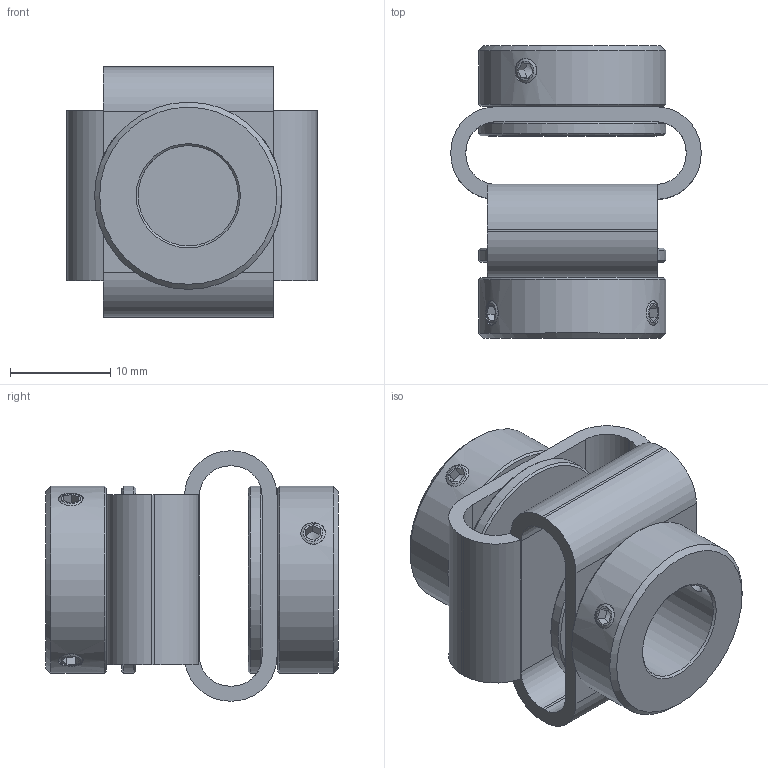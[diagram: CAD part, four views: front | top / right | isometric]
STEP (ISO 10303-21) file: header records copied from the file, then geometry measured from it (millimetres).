
FILE_DESCRIPTION(/* description */ (''),/* implementation_level */ '2;1');
FILE_NAME(/* name */ 'Z:\ABP-Antriebstechnik\Entwicklung-3D\Paguflex\DKPS 2928 06 10.stp',/* time_stamp */ '2017-06-26T14:44:44+02:00',/* author */ ('werner.boesinger'),/* organization */ (''),/* preprocessor_version */ 'ST-DEVELOPER v16.1',/* originating_system */ 'Autodesk Inventor 2016',/* authorisation */ '');
FILE_SCHEMA (('AUTOMOTIVE_DESIGN { 1 0 10303 214 3 1 1 }'));
Length unit declared in the file: millimetre
Products named in the file (1): DKPS 2928 06 10
Bounding box: 25 x 29.2 x 25 mm (x, y, z)
Volume: 5457.8 mm3; surface area: 5402.4 mm2
Topology: 1 solids, 3 shells, 154 faces, 366 edges, 226 vertices
Faces by surface type: plane 90, cylinder 36, cone 28
Full cylindrical faces by diameter (mm): 2.459 x8, 6 x1, 10 x1, 12.5 x2, 14 x4, 18.7 x4
Entity records: 4367 total; most frequent: CARTESIAN_POINT 961, DIRECTION 694, ORIENTED_EDGE 572, EDGE_CURVE 286, AXIS2_PLACEMENT_3D 273, EDGE_LOOP 220, VERTEX_POINT 192, STYLED_ITEM 155
